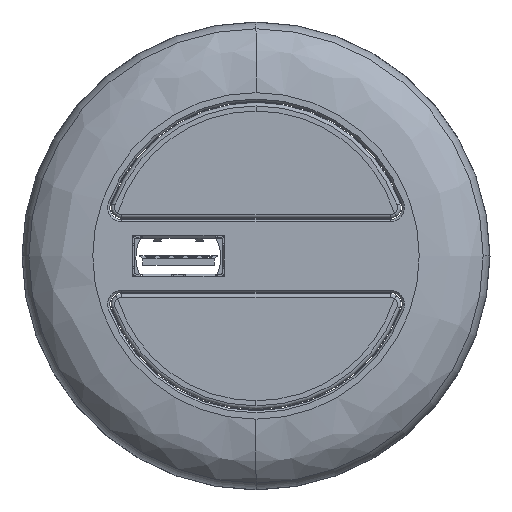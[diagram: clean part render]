
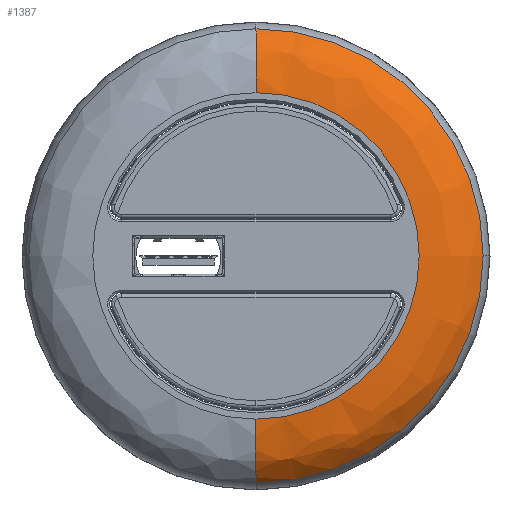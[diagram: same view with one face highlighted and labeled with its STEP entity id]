
A CAD part, top view. The second image highlights one B-rep face of the part: STEP entity #1387.
In plain terms, the highlighted free-form (B-spline) face has degree [3, 3] with [4, 4] control points.
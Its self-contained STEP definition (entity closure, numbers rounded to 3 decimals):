
#3 = ORIENTED_EDGE ( 'NONE', *, *, #3249, .T. ) ;
#4 = ORIENTED_EDGE ( 'NONE', *, *, #3251, .T. ) ;
#5 = ORIENTED_EDGE ( 'NONE', *, *, #3250, .F. ) ;
#6 = ORIENTED_EDGE ( 'NONE', *, *, #3240, .F. ) ;
#7 = ORIENTED_EDGE ( 'NONE', *, *, #3253, .T. ) ;
#1387 = ADVANCED_FACE ( 'NONE', ( #11574 ), #12536, .F. ) ;
#3240 = EDGE_CURVE ( 'NONE', #12357, #12356, #7067, .T. ) ;
#3249 = EDGE_CURVE ( 'NONE', #12354, #12355, #7069, .T. ) ;
#3250 = EDGE_CURVE ( 'NONE', #12356, #12355, #13682, .T. ) ;
#3251 = EDGE_CURVE ( 'NONE', #12353, #12354, #13683, .T. ) ;
#3253 = EDGE_CURVE ( 'NONE', #12357, #12353, #13687, .T. ) ;
#5055 = CARTESIAN_POINT ( 'NONE',  ( 0., -32.147, 0.603 ) ) ;
#5069 = CARTESIAN_POINT ( 'NONE',  ( 0., -30.897, 2.368 ) ) ;
#5070 = CARTESIAN_POINT ( 'NONE',  ( 0., -28.236, 4.4 ) ) ;
#5071 = CARTESIAN_POINT ( 'NONE',  ( 0., -23.1, 4.4 ) ) ;
#5072 = CARTESIAN_POINT ( 'NONE',  ( 0., 0., 0.603 ) ) ;
#5096 = CARTESIAN_POINT ( 'NONE',  ( 0., 32.147, 0.603 ) ) ;
#5099 = CARTESIAN_POINT ( 'NONE',  ( 0., 0., 4.4 ) ) ;
#5100 = CARTESIAN_POINT ( 'NONE',  ( 0., 30.897, 2.368 ) ) ;
#5101 = CARTESIAN_POINT ( 'NONE',  ( 0., 28.236, 4.4 ) ) ;
#5102 = CARTESIAN_POINT ( 'NONE',  ( 0., 23.1, 4.4 ) ) ;
#5103 = DIRECTION ( 'NONE',  ( 0., 0., 1. ) ) ;
#5104 = DIRECTION ( 'NONE',  ( 1., 0., 0. ) ) ;
#5105 = DIRECTION ( 'NONE',  ( 0., 0., 1. ) ) ;
#5106 = DIRECTION ( 'NONE',  ( 1., 0., 0. ) ) ;
#5110 = CARTESIAN_POINT ( 'NONE',  ( 0., 0., 0.603 ) ) ;
#5112 = DIRECTION ( 'NONE',  ( 0., 0., 1. ) ) ;
#5113 = DIRECTION ( 'NONE',  ( 1., 0., 0. ) ) ;
#7067 = B_SPLINE_CURVE_WITH_KNOTS ( 'NONE', 3,
 ( #5055, #5069, #5070, #5071 ),
 .UNSPECIFIED., .F., .F.,
 ( 4, 4 ),
 ( 0.34, 1. ),
 .UNSPECIFIED. ) ;
#7069 = B_SPLINE_CURVE_WITH_KNOTS ( 'NONE', 3,
 ( #5096, #5100, #5101, #5102 ),
 .UNSPECIFIED., .F., .F.,
 ( 4, 4 ),
 ( 0.34, 1. ),
 .UNSPECIFIED. ) ;
#7645 = AXIS2_PLACEMENT_3D ( 'NONE', #5072, #5105, #5106 ) ;
#7647 = AXIS2_PLACEMENT_3D ( 'NONE', #5099, #5103, #5104 ) ;
#7648 = AXIS2_PLACEMENT_3D ( 'NONE', #5110, #5112, #5113 ) ;
#9130 = CARTESIAN_POINT ( 'NONE',  ( 64.293, -32.147, 0.603 ) ) ;
#9131 = CARTESIAN_POINT ( 'NONE',  ( 64.293, 32.147, 0.603 ) ) ;
#9144 = CARTESIAN_POINT ( 'NONE',  ( 0., -32.147, 0.603 ) ) ;
#9147 = CARTESIAN_POINT ( 'NONE',  ( 0., 32.147, 0.603 ) ) ;
#9148 = CARTESIAN_POINT ( 'NONE',  ( 0., -30.897, 2.368 ) ) ;
#9149 = CARTESIAN_POINT ( 'NONE',  ( 61.794, -30.897, 2.368 ) ) ;
#9150 = CARTESIAN_POINT ( 'NONE',  ( 61.794, 30.897, 2.368 ) ) ;
#9151 = CARTESIAN_POINT ( 'NONE',  ( 0., 30.897, 2.368 ) ) ;
#9152 = CARTESIAN_POINT ( 'NONE',  ( 0., -28.236, 4.4 ) ) ;
#9153 = CARTESIAN_POINT ( 'NONE',  ( 56.473, -28.236, 4.4 ) ) ;
#9154 = CARTESIAN_POINT ( 'NONE',  ( 56.473, 28.236, 4.4 ) ) ;
#9155 = CARTESIAN_POINT ( 'NONE',  ( 0., 28.236, 4.4 ) ) ;
#9156 = CARTESIAN_POINT ( 'NONE',  ( 0., -23.1, 4.4 ) ) ;
#9157 = CARTESIAN_POINT ( 'NONE',  ( 46.2, -23.1, 4.4 ) ) ;
#9158 = CARTESIAN_POINT ( 'NONE',  ( 46.2, 23.1, 4.4 ) ) ;
#9159 = CARTESIAN_POINT ( 'NONE',  ( 0., 23.1, 4.4 ) ) ;
#9828 = CARTESIAN_POINT ( 'NONE',  ( 32.147, 0., 0.603 ) ) ;
#9829 = CARTESIAN_POINT ( 'NONE',  ( 0., 32.147, 0.603 ) ) ;
#9830 = CARTESIAN_POINT ( 'NONE',  ( 0., 23.1, 4.4 ) ) ;
#9831 = CARTESIAN_POINT ( 'NONE',  ( 0., -23.1, 4.4 ) ) ;
#9832 = CARTESIAN_POINT ( 'NONE',  ( 0., -32.147, 0.603 ) ) ;
#11471 = EDGE_LOOP ( 'NONE', ( #4, #3, #5, #6, #7 ) ) ;
#11574 = FACE_OUTER_BOUND ( 'NONE', #11471, .T. ) ;
#12353 = VERTEX_POINT ( 'NONE', #9828 ) ;
#12354 = VERTEX_POINT ( 'NONE', #9829 ) ;
#12355 = VERTEX_POINT ( 'NONE', #9830 ) ;
#12356 = VERTEX_POINT ( 'NONE', #9831 ) ;
#12357 = VERTEX_POINT ( 'NONE', #9832 ) ;
#12536 =( BOUNDED_SURFACE ( )  B_SPLINE_SURFACE ( 3, 3, ( 
 ( #9144, #9130, #9131, #9147 ),
 ( #9148, #9149, #9150, #9151 ),
 ( #9152, #9153, #9154, #9155 ),
 ( #9156, #9157, #9158, #9159 ) ),
 .UNSPECIFIED., .F., .F., .T. ) 
 B_SPLINE_SURFACE_WITH_KNOTS ( ( 4, 4 ),
 ( 4, 4 ),
 ( 0.34, 1. ),
 ( 0., 1. ),
 .UNSPECIFIED. ) 
 GEOMETRIC_REPRESENTATION_ITEM ( )  RATIONAL_B_SPLINE_SURFACE ( (
 ( 1., 0.333, 0.333, 1.),
 ( 1., 0.333, 0.333, 1.),
 ( 1., 0.333, 0.333, 1.),
 ( 1., 0.333, 0.333, 1.) ) ) 
 REPRESENTATION_ITEM ( '' )  SURFACE ( )  );
#13682 = CIRCLE ( 'NONE', #7647, 23.1 ) ;
#13683 = CIRCLE ( 'NONE', #7645, 32.147 ) ;
#13687 = CIRCLE ( 'NONE', #7648, 32.147 ) ;
